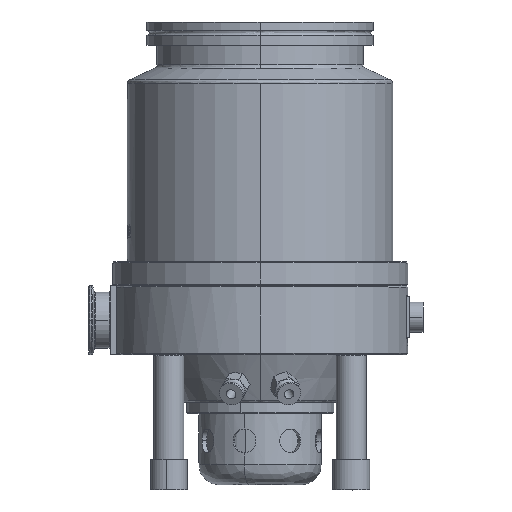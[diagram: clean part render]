
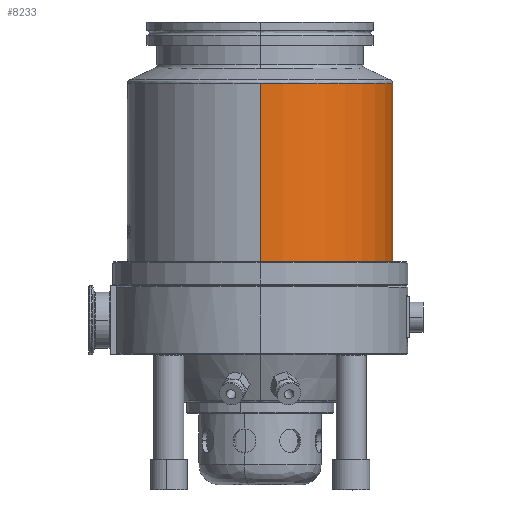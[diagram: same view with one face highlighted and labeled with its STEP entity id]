
A CAD part, top view. The second image highlights one B-rep face of the part: STEP entity #8233.
In plain terms, the highlighted cylindrical face has radius 106 mm (diameter 212 mm), a partial arc.
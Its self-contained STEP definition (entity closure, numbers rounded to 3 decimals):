
#2783 = DIRECTION ( 'NONE',  ( 0., 0., 1. ) ) ;
#3301 = VERTEX_POINT ( 'NONE', #46810 ) ;
#3441 = ORIENTED_EDGE ( 'NONE', *, *, #15221, .F. ) ;
#8233 = ADVANCED_FACE ( 'NONE', ( #19141 ), #49681, .T. ) ;
#12011 = VECTOR ( 'NONE', #38574, 1000. ) ;
#13086 = VERTEX_POINT ( 'NONE', #47240 ) ;
#13207 = VERTEX_POINT ( 'NONE', #46342 ) ;
#13223 = CARTESIAN_POINT ( 'NONE',  ( 0., -139., 0. ) ) ;
#13248 = LINE ( 'NONE', #35203, #12011 ) ;
#13726 = DIRECTION ( 'NONE',  ( 0., -1., 0. ) ) ;
#13834 = DIRECTION ( 'NONE',  ( 0., 1., 0. ) ) ;
#14065 = EDGE_CURVE ( 'NONE', #3301, #13207, #40215, .T. ) ;
#14653 = DIRECTION ( 'NONE',  ( 0., 0., 1. ) ) ;
#14908 = EDGE_CURVE ( 'NONE', #34591, #36975, #18791, .T. ) ;
#14975 = EDGE_CURVE ( 'NONE', #36975, #3301, #13248, .T. ) ;
#15216 = EDGE_CURVE ( 'NONE', #13207, #13086, #19418, .T. ) ;
#15221 = EDGE_CURVE ( 'NONE', #34591, #13086, #28501, .T. ) ;
#16352 = CARTESIAN_POINT ( 'NONE',  ( 0., 3.631, 0. ) ) ;
#16777 = CARTESIAN_POINT ( 'NONE',  ( 0., -139., 106. ) ) ;
#18379 = CARTESIAN_POINT ( 'NONE',  ( 0., 82.752, 106. ) ) ;
#18791 = CIRCLE ( 'NONE', #37088, 106. ) ;
#19141 = FACE_OUTER_BOUND ( 'NONE', #46803, .T. ) ;
#19418 = CIRCLE ( 'NONE', #36498, 106. ) ;
#20423 = DIRECTION ( 'NONE',  ( 0., 0., 1. ) ) ;
#20484 = DIRECTION ( 'NONE',  ( 0., -1., 0. ) ) ;
#20596 = CARTESIAN_POINT ( 'NONE',  ( 0., 3.631, 0. ) ) ;
#23648 = ORIENTED_EDGE ( 'NONE', *, *, #14065, .T. ) ;
#27939 = ORIENTED_EDGE ( 'NONE', *, *, #14908, .T. ) ;
#28501 = LINE ( 'NONE', #18379, #40204 ) ;
#31931 = ORIENTED_EDGE ( 'NONE', *, *, #15216, .T. ) ;
#32272 = CARTESIAN_POINT ( 'NONE',  ( 0., -139., -106. ) ) ;
#34591 = VERTEX_POINT ( 'NONE', #16777 ) ;
#35203 = CARTESIAN_POINT ( 'NONE',  ( 0., 82.752, -106. ) ) ;
#35206 = ORIENTED_EDGE ( 'NONE', *, *, #14975, .T. ) ;
#36498 = AXIS2_PLACEMENT_3D ( 'NONE', #16352, #13726, #2783 ) ;
#36975 = VERTEX_POINT ( 'NONE', #32272 ) ;
#37088 = AXIS2_PLACEMENT_3D ( 'NONE', #13223, #13834, #14653 ) ;
#38380 = AXIS2_PLACEMENT_3D ( 'NONE', #20596, #20484, #20423 ) ;
#38574 = DIRECTION ( 'NONE',  ( 0., 1., 0. ) ) ;
#40204 = VECTOR ( 'NONE', #49566, 1000. ) ;
#40215 = CIRCLE ( 'NONE', #38380, 106. ) ;
#46342 = CARTESIAN_POINT ( 'NONE',  ( 106., 3.631, 0. ) ) ;
#46681 = AXIS2_PLACEMENT_3D ( 'NONE', #49548, #49304, #49864 ) ;
#46803 = EDGE_LOOP ( 'NONE', ( #27939, #35206, #23648, #31931, #3441 ) ) ;
#46810 = CARTESIAN_POINT ( 'NONE',  ( 0., 3.631, -106. ) ) ;
#47240 = CARTESIAN_POINT ( 'NONE',  ( 0., 3.631, 106. ) ) ;
#49304 = DIRECTION ( 'NONE',  ( 0., 1., 0. ) ) ;
#49548 = CARTESIAN_POINT ( 'NONE',  ( 0., 82.752, 0. ) ) ;
#49566 = DIRECTION ( 'NONE',  ( 0., 1., 0. ) ) ;
#49681 = CYLINDRICAL_SURFACE ( 'NONE', #46681, 106. ) ;
#49864 = DIRECTION ( 'NONE',  ( 0., 0., 1. ) ) ;
